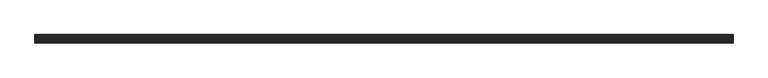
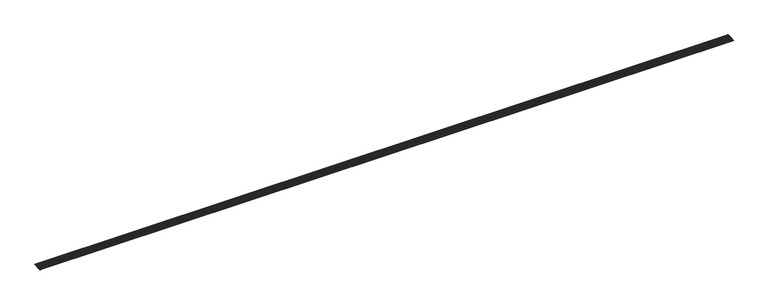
"""IFC4 building model written with IfcOpenShell, lengths in millimetres: slab geometry, ROSA GRES_001 (2 filas) : Piezas 001_Aqua_Blanco_Anti-Slip."""

import ifcopenshell
import ifcopenshell.guid

model = None  # the IFC model being written
_history = None  # IfcOwnerHistory: only IFC2X3 demands one
_inside = {}  # id of a spatial element -> (the spatial element, [elements in it])
_under = {}  # id of a project, library or spatial element -> (it, [spatial elements below it])
_declared = {}  # id of a project -> (the project, [libraries it declares])
_typed = {}  # id of a type object -> (the type object, [elements of that type])
_made_of = {}  # id of a material, layer set ... -> (it, [elements and type objects made of it])


def new_model(schema):
    """Start an empty IFC model of exactly this schema.

    Asked for "IFC4X3", IfcOpenShell would pick the latest addendum, in which some entities
    have other attributes; the version numbers below select the first issue.
    IFC2X3 requires an IfcOwnerHistory on every rooted entity: one is made here for all.
    """
    global model, _history
    if schema == "IFC4X3":
        model = ifcopenshell.file(schema_version=(4, 3, 0, 0))
    else:
        model = ifcopenshell.file(schema=schema)
    _inside.clear()
    _under.clear()
    _declared.clear()
    _typed.clear()
    _made_of.clear()
    _history = None
    if model.schema == "IFC2X3":
        org = make("IfcOrganization", Name="unknown")
        user = make(
            "IfcPersonAndOrganization",
            ThePerson=make("IfcPerson", FamilyName="unknown"),
            TheOrganization=org,
        )
        app = make(
            "IfcApplication",
            ApplicationDeveloper=org,
            Version="unknown",
            ApplicationFullName="unknown",
            ApplicationIdentifier="unknown",
        )
        _history = make(
            "IfcOwnerHistory",
            OwningUser=user,
            OwningApplication=app,
            ChangeAction="ADDED",
            CreationDate=0,
        )
    return model


def make(cls, **values):
    """One entity of the class cls with the attributes given. An attribute that is None is left unset."""
    return model.create_entity(
        cls, **{name: value for name, value in values.items() if value is not None}
    )


def rooted(cls, **values):
    """An entity with a GlobalId (a new one), such as an element, a storey or a relation."""
    return make(cls, GlobalId=ifcopenshell.guid.new(), OwnerHistory=_history, **values)


def si_unit(unit_type, name, prefix=None):
    """IfcSIUnit, for example si_unit("LENGTHUNIT", "METRE", prefix="MILLI")."""
    return make("IfcSIUnit", UnitType=unit_type, Prefix=prefix, Name=name)


def assignment(units):
    """IfcUnitAssignment: the units of a project."""
    return None if units is None else make("IfcUnitAssignment", Units=units)


def point(xyz):
    """IfcCartesianPoint."""
    return None if xyz is None else make("IfcCartesianPoint", Coordinates=xyz)


def direction(xyz):
    """IfcDirection."""
    return None if xyz is None else make("IfcDirection", DirectionRatios=xyz)


def frame(location, z_axis=None, x_axis=None):
    """IfcAxis2Placement3D, a coordinate frame: its origin and axes. An axis left out is left unset."""
    return make(
        "IfcAxis2Placement3D",
        Location=point(location),
        Axis=direction(z_axis),
        RefDirection=direction(x_axis),
    )


def frame_2d(location, x_axis=None):
    """IfcAxis2Placement2D, a coordinate frame in the plane: its origin and x axis."""
    return make(
        "IfcAxis2Placement2D", Location=point(location), RefDirection=direction(x_axis)
    )


def origin():
    """The frame at (0, 0, 0) with its axes left unset."""
    return frame((0.0, 0.0, 0.0))


def place(relative_to, where):
    """IfcLocalPlacement: puts the frame where relative to a parent placement (None: the world)."""
    return make(
        "IfcLocalPlacement", PlacementRelTo=relative_to, RelativePlacement=where
    )


def context(
    kind, dimensions, precision=None, world=None, true_north=None, identifier=None
):
    """IfcGeometricRepresentationContext, for example the 3D "Model" context."""
    return make(
        "IfcGeometricRepresentationContext",
        ContextIdentifier=identifier,
        ContextType=kind,
        CoordinateSpaceDimension=dimensions,
        Precision=precision,
        WorldCoordinateSystem=world,
        TrueNorth=true_north,
    )


def project(units=None, contexts=None):
    """IfcProject with its units and contexts."""
    return rooted(
        "IfcProject",
        Name="project",
        RepresentationContexts=contexts,
        UnitsInContext=assignment(units),
    )


def spatial(cls, under=None, at=None, **own):
    """A site, building, storey or space (cls), placed at a placement, below another one or the project."""
    s = rooted(cls, ObjectPlacement=at, **own)
    if under is not None:
        _under.setdefault(under.id(), (under, []))[1].append(s)
    return s


def polyline(points):
    """IfcPolyline through the points."""
    return make("IfcPolyline", Points=[point(p) for p in points])


def circle_curve(where, radius):
    """IfcCircle in the frame where."""
    return make("IfcCircle", Position=where, Radius=radius)


def trimmed(basis, trim1, trim2, sense, master):
    """IfcTrimmedCurve: the piece of a basis curve between two trims."""
    return make(
        "IfcTrimmedCurve",
        BasisCurve=basis,
        Trim1=trim1,
        Trim2=trim2,
        SenseAgreement=sense,
        MasterRepresentation=master,
    )


def segment(curve, same_sense, transition):
    """IfcCompositeCurveSegment."""
    return make(
        "IfcCompositeCurveSegment",
        Transition=transition,
        SameSense=same_sense,
        ParentCurve=curve,
    )


def composite_curve(segments, self_intersect=None):
    """IfcCompositeCurve: segments joined end to end."""
    return make("IfcCompositeCurve", Segments=segments, SelfIntersect=self_intersect)


def outline(outer, holes=None, kind="AREA"):
    """IfcArbitraryClosedProfileDef: a profile drawn as a closed curve; with holes, ...WithVoids."""
    if holes is None:
        return make("IfcArbitraryClosedProfileDef", ProfileType=kind, OuterCurve=outer)
    return make(
        "IfcArbitraryProfileDefWithVoids",
        ProfileType=kind,
        OuterCurve=outer,
        InnerCurves=holes,
    )


def extrude(swept, where, along, depth):
    """IfcExtrudedAreaSolid: the profile swept, set in the frame where, extruded along a direction by depth."""
    return make(
        "IfcExtrudedAreaSolid",
        SweptArea=swept,
        Position=where,
        ExtrudedDirection=direction(along),
        Depth=depth,
    )


def shape(context_of_items, identifier, shape_type, items):
    """IfcShapeRepresentation: the items that make up one representation, for example the "Body"."""
    return make(
        "IfcShapeRepresentation",
        ContextOfItems=context_of_items,
        RepresentationIdentifier=identifier,
        RepresentationType=shape_type,
        Items=items,
    )


def source(mapping_origin, context_of_items, identifier, shape_type, items):
    """IfcRepresentationMap: a shape defined once, which mapped items show again and again."""
    return make(
        "IfcRepresentationMap",
        MappingOrigin=mapping_origin,
        MappedRepresentation=shape(context_of_items, identifier, shape_type, items),
    )


def transform(
    local_origin,
    x_axis=None,
    y_axis=None,
    z_axis=None,
    scale=None,
    scale2=None,
    scale3=None,
    uniform=True,
):
    """IfcCartesianTransformationOperator3D, or its non-uniform kind. x_axis, y_axis, z_axis: its Axis1, 2, 3."""
    if uniform:
        return make(
            "IfcCartesianTransformationOperator3D",
            Axis1=direction(x_axis),
            Axis2=direction(y_axis),
            LocalOrigin=point(local_origin),
            Scale=scale,
            Axis3=direction(z_axis),
        )
    return make(
        "IfcCartesianTransformationOperator3DnonUniform",
        Axis1=direction(x_axis),
        Axis2=direction(y_axis),
        LocalOrigin=point(local_origin),
        Scale=scale,
        Axis3=direction(z_axis),
        Scale2=scale2,
        Scale3=scale3,
    )


def mapped(mapping_source, mapping_target):
    """IfcMappedItem: shows the shape of a source again, moved by a transform."""
    return make(
        "IfcMappedItem", MappingSource=mapping_source, MappingTarget=mapping_target
    )


def made_of(thing, what):
    """Note that an element or type object is made of a material, layer set ...; save() writes the relation."""
    if what is not None:
        _made_of.setdefault(what.id(), (what, []))[1].append(thing)
    return thing


def element(
    cls,
    number,
    at=None,
    inside=None,
    cuts=None,
    type_object=None,
    material=None,
    context=None,
    identifier="Body",
    shape_type=None,
    held_by="IfcProductDefinitionShape",
    body=None,
    shapes=None,
    **own,
):
    """One element of the class cls, such as IfcWall. Its Tag is "e" and its number.

    at: its placement. inside: the storey or other place that contains it. cuts: it is an
    opening in that element (IfcRelVoidsElement). A single representation is given by context,
    identifier, shape_type and body (its items); several are given by shapes. held_by: the class
    of the entity that holds the representations. save() writes the other relations.
    """
    e = rooted(cls, Tag="e%d" % number, ObjectPlacement=at, **own)
    if body is not None:
        shapes = [shape(context, identifier, shape_type, body)]
    if shapes is not None:
        e.Representation = make(held_by, Representations=shapes)
    if inside is not None:
        _inside.setdefault(inside.id(), (inside, []))[1].append(e)
    if cuts is not None:
        rooted(
            "IfcRelVoidsElement", RelatingBuildingElement=cuts, RelatedOpeningElement=e
        )
    if type_object is not None:
        _typed.setdefault(type_object.id(), (type_object, []))[1].append(e)
    return made_of(e, material)


def aggregate(whole, parts):
    """IfcRelAggregates: a whole, such as a stair, and the parts it consists of."""
    return rooted("IfcRelAggregates", RelatingObject=whole, RelatedObjects=parts)


def save(model, path):
    """Write the relations noted so far, then the file.

    IfcRelAggregates (storeys below a building ...), IfcRelContainedInSpatialStructure (elements
    in a storey), IfcRelDefinesByType, IfcRelAssociatesMaterial and IfcRelDeclares: one each for
    every whole, place, type object, material and project.
    """
    for whole, parts in _under.values():
        aggregate(whole, parts)
    for where, things in _inside.values():
        rooted(
            "IfcRelContainedInSpatialStructure",
            RelatedElements=things,
            RelatingStructure=where,
        )
    for kind, things in _typed.values():
        rooted("IfcRelDefinesByType", RelatedObjects=things, RelatingType=kind)
    for what, things in _made_of.values():
        rooted("IfcRelAssociatesMaterial", RelatedObjects=things, RelatingMaterial=what)
    for by, libraries in _declared.values():
        rooted("IfcRelDeclares", RelatingContext=by, RelatedDefinitions=libraries)
    model.write(path)


def slab_47180fc9(model_context):
    return source(origin(), model_context, "Body", "SweptSolid", [
        extrude(outline(polyline([(59.4997999, 0.0), (-59.4998, 0.0), (-59.4998, 20530.0265886), (59.4997999, 20530.0265886), (59.4997999, 0.0)])), frame((20530.0265886, 183.3614376, 204.5238637), z_axis=(0.0, -0.08112705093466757, 0.9967037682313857), x_axis=(0.0, 0.9967037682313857, 0.08112705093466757)), (0.0, 0.0, 1.0), 5.0),
        extrude(outline(polyline([(59.4998, 0.0), (-59.4997999, 0.0), (-59.4997999, 20530.0265886), (59.4998, 20530.0265886), (59.4998, 0.0)])), frame((20530.0265886, 307.9490099, 214.6647126), z_axis=(0.0, -0.08112705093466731, 0.9967037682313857), x_axis=(0.0, 0.9967037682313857, 0.08112705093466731)), (0.0, 0.0, 1.0), 5.0),
        extrude(outline(composite_curve([segment(polyline([(242.2594772, 214.3344258), (123.6521274, 204.6803392), (123.4389282, 207.2996439)]), True, "CONTINUOUS"), segment(trimmed(circle_curve(frame_2d((122.9853249, 212.8724843)), 5.5912705), [point((123.4389282, 207.2996439))], [point((127.5160501, 209.5960785))], True, "CARTESIAN"), True, "CONTINUOUS"), segment(trimmed(circle_curve(frame_2d((131.4572785, 213.5620619)), 5.5912705), [point((127.5160501, 209.5960785))], [point((135.9880037, 210.2856561))], True, "CARTESIAN"), True, "CONTINUOUS"), segment(trimmed(circle_curve(frame_2d((139.929232, 214.2516395)), 5.5912705), [point((135.9880037, 210.2856561))], [point((144.4599572, 210.9752337))], True, "CARTESIAN"), True, "CONTINUOUS"), segment(trimmed(circle_curve(frame_2d((148.4011856, 214.9412171)), 5.5912705), [point((144.4599572, 210.9752337))], [point((152.9319108, 211.6648113))], True, "CARTESIAN"), True, "CONTINUOUS"), segment(trimmed(circle_curve(frame_2d((156.8731392, 215.6307947)), 5.5912705), [point((152.9319108, 211.6648113))], [point((161.4038643, 212.3543889))], True, "CARTESIAN"), True, "CONTINUOUS"), segment(trimmed(circle_curve(frame_2d((165.3450927, 216.3203723)), 5.5912705), [point((161.4038643, 212.3543889))], [point((169.8758179, 213.0439666))], True, "CARTESIAN"), True, "CONTINUOUS"), segment(trimmed(circle_curve(frame_2d((173.8170463, 217.00995)), 5.5912705), [point((169.8758179, 213.0439666))], [point((178.3477714, 213.7335442))], True, "CARTESIAN"), True, "CONTINUOUS"), segment(trimmed(circle_curve(frame_2d((182.2889998, 217.6995276)), 5.5912705), [point((178.3477714, 213.7335442))], [point((186.819725, 214.4231218))], True, "CARTESIAN"), True, "CONTINUOUS"), segment(trimmed(circle_curve(frame_2d((190.7609534, 218.3891052)), 5.5912705), [point((186.819725, 214.4231218))], [point((195.2916785, 215.1126994))], True, "CARTESIAN"), True, "CONTINUOUS"), segment(trimmed(circle_curve(frame_2d((199.2329069, 219.0786828)), 5.5912705), [point((195.2916785, 215.1126994))], [point((203.7636321, 215.802277))], True, "CARTESIAN"), True, "CONTINUOUS"), segment(trimmed(circle_curve(frame_2d((207.7048605, 219.7682604)), 5.5912705), [point((203.7636321, 215.802277))], [point((212.2355856, 216.4918546))], True, "CARTESIAN"), True, "CONTINUOUS"), segment(trimmed(circle_curve(frame_2d((216.176814, 220.457838)), 5.5912705), [point((212.2355856, 216.4918546))], [point((220.7075392, 217.1814322))], True, "CARTESIAN"), True, "CONTINUOUS"), segment(trimmed(circle_curve(frame_2d((224.6487676, 221.1474157)), 5.5912705), [point((220.7075392, 217.1814322))], [point((229.1794928, 217.8710099))], True, "CARTESIAN"), True, "CONTINUOUS"), segment(trimmed(circle_curve(frame_2d((233.1207211, 221.8369933)), 5.5912705), [point((229.1794928, 217.8710099))], [point((237.6514463, 218.5605875))], True, "CARTESIAN"), True, "CONTINUOUS"), segment(trimmed(circle_curve(frame_2d((241.5926747, 222.5265709)), 5.5912705), [point((237.6514463, 218.5605875))], [point((242.046278, 216.9537305))], True, "CARTESIAN"), True, "CONTINUOUS"), segment(polyline([(242.046278, 216.9537305), (242.2594772, 214.3344258)]), True, "CONTINUOUS")], self_intersect=False)), frame((0.0, 0.0, 0.0), z_axis=(1.0, 0.0, 0.0), x_axis=(0.0, 1.0, 0.0)), (0.0, 0.0, 1.0), 20530.0265886),
        extrude(outline(composite_curve([segment(polyline([(366.8470495, 224.4752747), (248.2396998, 214.8211881), (248.0265006, 217.4404928)]), True, "CONTINUOUS"), segment(trimmed(circle_curve(frame_2d((247.5728973, 223.0133332)), 5.5912705), [point((248.0265006, 217.4404928))], [point((252.1036225, 219.7369274))], True, "CARTESIAN"), True, "CONTINUOUS"), segment(trimmed(circle_curve(frame_2d((256.0448508, 223.7029108)), 5.5912705), [point((252.1036225, 219.7369274))], [point((260.575576, 220.426505))], True, "CARTESIAN"), True, "CONTINUOUS"), segment(trimmed(circle_curve(frame_2d((264.5168044, 224.3924884)), 5.5912705), [point((260.575576, 220.426505))], [point((269.0475296, 221.1160826))], True, "CARTESIAN"), True, "CONTINUOUS"), segment(trimmed(circle_curve(frame_2d((272.9887579, 225.082066)), 5.5912705), [point((269.0475296, 221.1160826))], [point((277.5194831, 221.8056602))], True, "CARTESIAN"), True, "CONTINUOUS"), segment(trimmed(circle_curve(frame_2d((281.4607115, 225.7716436)), 5.5912705), [point((277.5194831, 221.8056602))], [point((285.9914367, 222.4952379))], True, "CARTESIAN"), True, "CONTINUOUS"), segment(trimmed(circle_curve(frame_2d((289.9326651, 226.4612213)), 5.5912705), [point((285.9914367, 222.4952379))], [point((294.4633902, 223.1848155))], True, "CARTESIAN"), True, "CONTINUOUS"), segment(trimmed(circle_curve(frame_2d((298.4046186, 227.1507989)), 5.5912705), [point((294.4633902, 223.1848155))], [point((302.9353438, 223.8743931))], True, "CARTESIAN"), True, "CONTINUOUS"), segment(trimmed(circle_curve(frame_2d((306.8765722, 227.8403765)), 5.5912705), [point((302.9353438, 223.8743931))], [point((311.4072973, 224.5639707))], True, "CARTESIAN"), True, "CONTINUOUS"), segment(trimmed(circle_curve(frame_2d((315.3485257, 228.5299541)), 5.5912705), [point((311.4072973, 224.5639707))], [point((319.8792509, 225.2535483))], True, "CARTESIAN"), True, "CONTINUOUS"), segment(trimmed(circle_curve(frame_2d((323.8204793, 229.2195317)), 5.5912705), [point((319.8792509, 225.2535483))], [point((328.3512044, 225.9431259))], True, "CARTESIAN"), True, "CONTINUOUS"), segment(trimmed(circle_curve(frame_2d((332.2924328, 229.9091093)), 5.5912705), [point((328.3512044, 225.9431259))], [point((336.823158, 226.6327035))], True, "CARTESIAN"), True, "CONTINUOUS"), segment(trimmed(circle_curve(frame_2d((340.7643864, 230.5986869)), 5.5912705), [point((336.823158, 226.6327035))], [point((345.2951115, 227.3222812))], True, "CARTESIAN"), True, "CONTINUOUS"), segment(trimmed(circle_curve(frame_2d((349.2363399, 231.2882646)), 5.5912705), [point((345.2951115, 227.3222812))], [point((353.7670651, 228.0118588))], True, "CARTESIAN"), True, "CONTINUOUS"), segment(trimmed(circle_curve(frame_2d((357.7082935, 231.9778422)), 5.5912705), [point((353.7670651, 228.0118588))], [point((362.2390187, 228.7014364))], True, "CARTESIAN"), True, "CONTINUOUS"), segment(trimmed(circle_curve(frame_2d((366.180247, 232.6674198)), 5.5912705), [point((362.2390187, 228.7014364))], [point((366.6338503, 227.0945794))], True, "CARTESIAN"), True, "CONTINUOUS"), segment(polyline([(366.6338503, 227.0945794), (366.8470495, 224.4752747)]), True, "CONTINUOUS")], self_intersect=False)), frame((0.0, 0.0, 0.0), z_axis=(1.0, 0.0, 0.0), x_axis=(0.0, 1.0, 0.0)), (0.0, 0.0, 1.0), 20530.0265886),
    ])


if __name__ == "__main__":
    model = new_model("IFC4")
    model_context = context("Model", 3, world=origin())
    ifc_project = project(units=[si_unit("LENGTHUNIT", "METRE", prefix="MILLI")], contexts=[model_context])
    site = spatial("IfcSite", under=ifc_project)
    building = spatial("IfcBuilding", under=site)
    placement = place(None, origin())
    slab_shape = slab_47180fc9(model_context)
    element("IfcSlab", 1, ObjectType="ROSA GRES_001 (2 filas) : Piezas 001_Aqua_Blanco_Anti-Slip", at=placement, inside=building, context=model_context, shape_type="MappedRepresentation", body=[
        mapped(slab_shape, transform((0.0, 0.0, 0.0), x_axis=(1.0, 0.0, 0.0), y_axis=(0.0, 1.0, 0.0), z_axis=(0.0, 0.0, 1.0))),
    ])
    save(model, "model.ifc")
